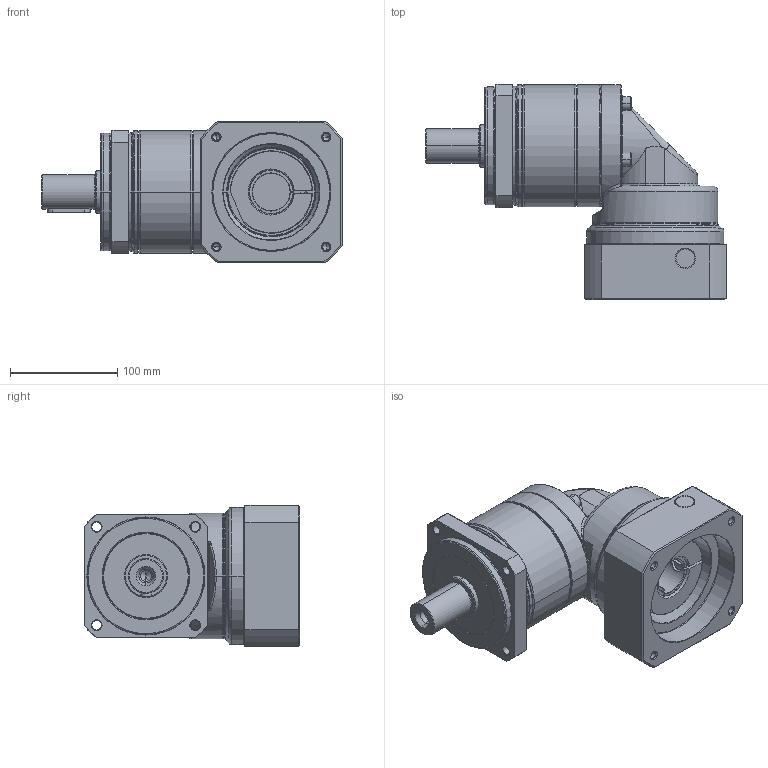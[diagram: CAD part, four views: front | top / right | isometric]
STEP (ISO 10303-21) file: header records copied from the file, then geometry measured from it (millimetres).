
FILE_DESCRIPTION((''),'2;1');
FILE_NAME('PA2R-115_1ST_35-P0411800101_ASM','2016-05-12T',('d01943'),(''),'PRO/ENGINEER BY PARAMETRIC TECHNOLOGY CORPORATION, 2008410','PRO/ENGINEER BY PARAMETRIC TECHNOLOGY CORPORATION, 2008410','');
FILE_SCHEMA(('CONFIG_CONTROL_DESIGN'));
Length unit declared in the file: millimetre
Products named in the file (12): P1327410001; P0250400001; P0350400601; P1349400001; P1017400001; P0713404001; P0503800010; P1350400401; P0411800101; P1702600001; 2111B108035; PA2R-115_1ST_35-P0411800101_ASM
Assembly tree (14 placements, depth 2):
  PA2R-115_1ST_35-P0411800101_ASM
    P1327410001
    P0250400001
    P0350400601
    P1349400001
    P1017400001
    P0713404001
    P0503800010
    P1350400401
    P0411800101
    P1702600001
    2111B108035  x4
Bounding box: 280 x 201 x 132 mm (x, y, z)
Volume: 2069763.7 mm3; surface area: 380935.3 mm2
Topology: 14 solids, 14 shells, 727 faces, 1604 edges, 926 vertices
Faces by surface type: cylinder 214, cone 210, plane 167, torus 104, bspline 32
Entity records: 23248 total; most frequent: CARTESIAN_POINT 9181, DIRECTION 3104, ORIENTED_EDGE 2732, EDGE_CURVE 1366, AXIS2_PLACEMENT_3D 1307, VERTEX_POINT 806, EDGE_LOOP 708, CIRCLE 685
